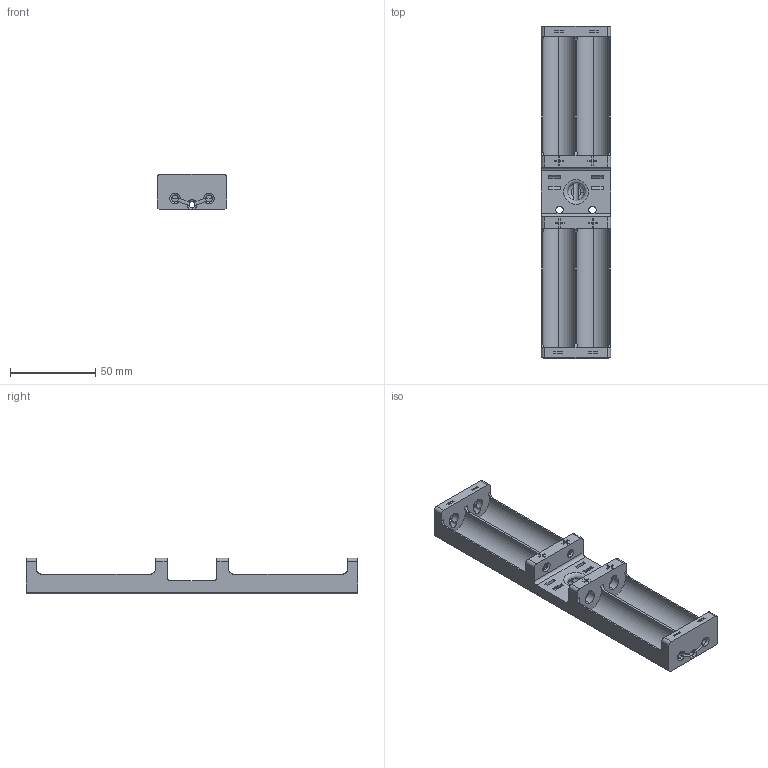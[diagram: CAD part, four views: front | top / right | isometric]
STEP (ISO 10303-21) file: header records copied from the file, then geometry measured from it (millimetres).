
FILE_DESCRIPTION(('HOOPS Exchange Step'),'2;1');
FILE_NAME('/private/var/mobile/Containers/Data/Application/6645FEE8-917D-41E1-B4AE-5ED5900E217E/tmp/export/temp_export','2026-06-17T18:48:39-05:00',('mobile'),('Shapr3D Limited'),'HOOPS Exchange 2026.3','Shapr3D','Authorized');
FILE_SCHEMA( ('AP242_MANAGED_MODEL_BASED_3D_ENGINEERING_MIM_LF {1 0 10303 442 1 1 4}') );
Length unit declared in the file: millimetre
Products named in the file (2): Batt final.step; root
Assembly tree (1 placements, depth 2):
  root
    Batt final.step
Bounding box: 40.64 x 195 x 21 mm (x, y, z)
Volume: 46337.3 mm3; surface area: 33422.9 mm2
Topology: 1 solids, 1 shells, 229 faces, 673 edges, 448 vertices
Faces by surface type: plane 133, cylinder 66, torus 30
Full cylindrical faces by diameter (mm): 3 x2, 3.5 x1, 4 x6, 4.4 x2, 10 x1
Entity records: 8728 total; most frequent: CARTESIAN_POINT 2422, ORIENTED_EDGE 1346, DIRECTION 1287, EDGE_CURVE 673, VERTEX_POINT 448, AXIS2_PLACEMENT_3D 437, VECTOR 413, LINE 413
